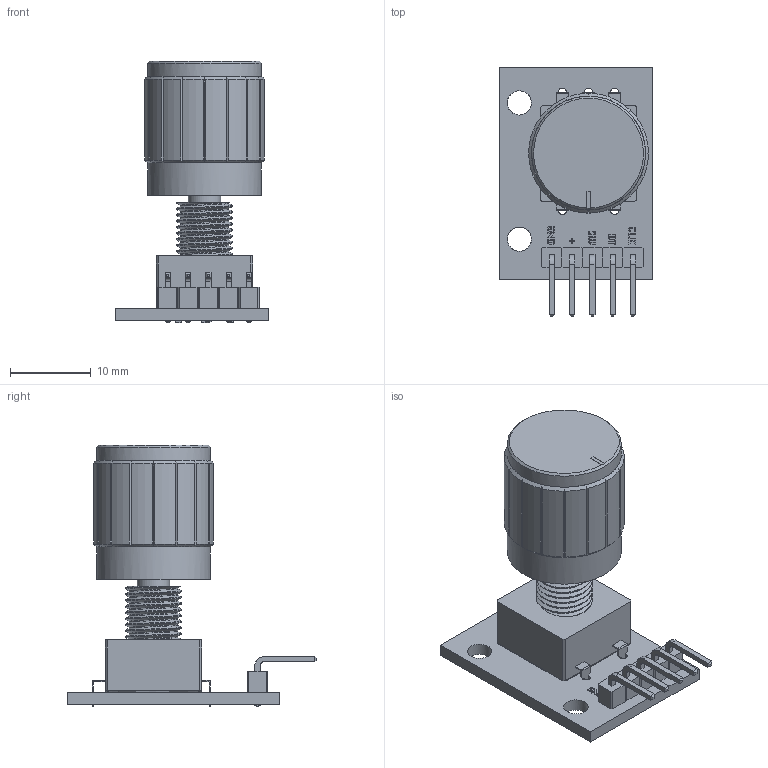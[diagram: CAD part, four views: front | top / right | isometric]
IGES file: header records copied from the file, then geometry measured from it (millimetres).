
Global section: file name: Rotary Encoder - KY-040; native system: unknown; preprocessor: unknown; author: unknown; organization: unknown; date: 20221216.152039; units: millimetre
Bounding box: 19 x 30.75 x 32.39 mm (x, y, z)
Volume: 4450.6 mm3; surface area: 4313.9 mm2
Topology: 20 solids, 20 shells, 534 faces, 1380 edges, 904 vertices
Faces by surface type: bspline 534
